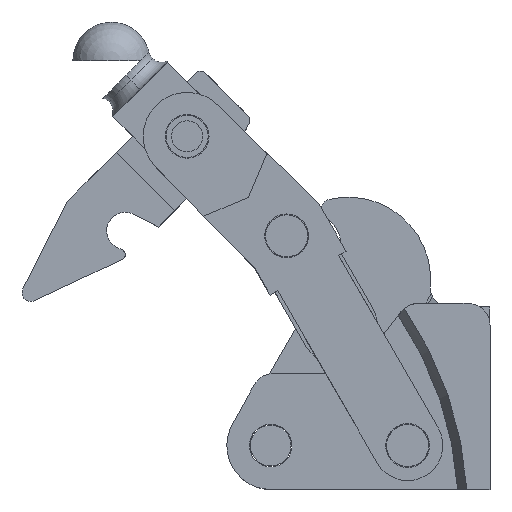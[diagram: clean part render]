
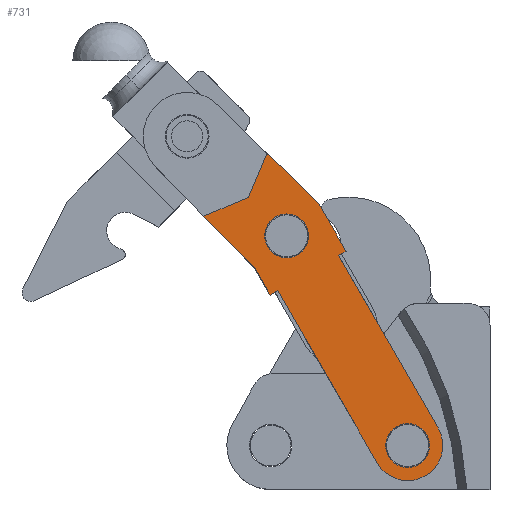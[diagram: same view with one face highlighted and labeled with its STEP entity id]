
A CAD part, top view. The second image highlights one B-rep face of the part: STEP entity #731.
In plain terms, the highlighted planar face has unit normal (0, 0, 1).
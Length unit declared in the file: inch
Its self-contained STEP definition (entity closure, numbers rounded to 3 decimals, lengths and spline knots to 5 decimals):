
#731 = ADVANCED_FACE( '', ( #1080, #1081, #1082 ), #1083, .F. );
#1080 = FACE_OUTER_BOUND( '', #1750, .T. );
#1081 = FACE_BOUND( '', #1751, .T. );
#1082 = FACE_BOUND( '', #1752, .T. );
#1083 = PLANE( '', #1753 );
#1750 = EDGE_LOOP( '', ( #2653, #2654, #2655, #2656, #2657, #2658, #2659, #2660, #2661, #2662, #2663, #2664 ) );
#1751 = EDGE_LOOP( '', ( #2665, #2666, #2667 ) );
#1752 = EDGE_LOOP( '', ( #2668, #2669, #2670 ) );
#1753 = AXIS2_PLACEMENT_3D( '', #2671, #2672, #2673 );
#2653 = ORIENTED_EDGE( '', *, *, #5144, .F. );
#2654 = ORIENTED_EDGE( '', *, *, #5150, .F. );
#2655 = ORIENTED_EDGE( '', *, *, #5128, .F. );
#2656 = ORIENTED_EDGE( '', *, *, #5151, .F. );
#2657 = ORIENTED_EDGE( '', *, *, #5152, .F. );
#2658 = ORIENTED_EDGE( '', *, *, #5153, .F. );
#2659 = ORIENTED_EDGE( '', *, *, #5154, .F. );
#2660 = ORIENTED_EDGE( '', *, *, #5042, .F. );
#2661 = ORIENTED_EDGE( '', *, *, #5155, .F. );
#2662 = ORIENTED_EDGE( '', *, *, #5156, .F. );
#2663 = ORIENTED_EDGE( '', *, *, #5157, .F. );
#2664 = ORIENTED_EDGE( '', *, *, #5134, .F. );
#2665 = ORIENTED_EDGE( '', *, *, #5158, .T. );
#2666 = ORIENTED_EDGE( '', *, *, #5034, .T. );
#2667 = ORIENTED_EDGE( '', *, *, #5159, .T. );
#2668 = ORIENTED_EDGE( '', *, *, #5160, .T. );
#2669 = ORIENTED_EDGE( '', *, *, #5026, .T. );
#2670 = ORIENTED_EDGE( '', *, *, #5161, .T. );
#2671 = CARTESIAN_POINT( '', ( -0.938, 0.5, 0.66 ) );
#2672 = DIRECTION( '', ( 0., 0., -1. ) );
#2673 = DIRECTION( '', ( 0., -1., 0. ) );
#5026 = EDGE_CURVE( '', #5900, #5904, #5906, .T. );
#5034 = EDGE_CURVE( '', #5916, #5920, #5922, .T. );
#5042 = EDGE_CURVE( '', #5936, #5932, #5938, .T. );
#5128 = EDGE_CURVE( '', #6083, #6085, #6086, .T. );
#5134 = EDGE_CURVE( '', #6094, #6096, #6097, .T. );
#5144 = EDGE_CURVE( '', #6112, #6094, #6114, .T. );
#5150 = EDGE_CURVE( '', #6085, #6112, #6121, .T. );
#5151 = EDGE_CURVE( '', #6122, #6083, #6123, .T. );
#5152 = EDGE_CURVE( '', #6124, #6122, #6125, .T. );
#5153 = EDGE_CURVE( '', #6126, #6124, #6127, .T. );
#5154 = EDGE_CURVE( '', #5932, #6126, #6128, .T. );
#5155 = EDGE_CURVE( '', #6129, #5936, #6130, .T. );
#5156 = EDGE_CURVE( '', #6131, #6129, #6132, .T. );
#5157 = EDGE_CURVE( '', #6096, #6131, #6133, .T. );
#5158 = EDGE_CURVE( '', #6134, #5916, #6135, .T. );
#5159 = EDGE_CURVE( '', #5920, #6134, #6136, .T. );
#5160 = EDGE_CURVE( '', #6137, #5900, #6138, .T. );
#5161 = EDGE_CURVE( '', #5904, #6137, #6139, .T. );
#5900 = VERTEX_POINT( '', #7349 );
#5904 = VERTEX_POINT( '', #7354 );
#5906 = CIRCLE( '', #7357, 0.25 );
#5916 = VERTEX_POINT( '', #7369 );
#5920 = VERTEX_POINT( '', #7374 );
#5922 = CIRCLE( '', #7377, 0.25 );
#5932 = VERTEX_POINT( '', #7389 );
#5936 = VERTEX_POINT( '', #7394 );
#5938 = CIRCLE( '', #7397, 0.4 );
#6083 = VERTEX_POINT( '', #7616 );
#6085 = VERTEX_POINT( '', #7619 );
#6086 = LINE( '', #7620, #7621 );
#6094 = VERTEX_POINT( '', #7633 );
#6096 = VERTEX_POINT( '', #7636 );
#6097 = LINE( '', #7637, #7638 );
#6112 = VERTEX_POINT( '', #7661 );
#6114 = LINE( '', #7664, #7665 );
#6121 = LINE( '', #7674, #7675 );
#6122 = VERTEX_POINT( '', #7676 );
#6123 = LINE( '', #7677, #7678 );
#6124 = VERTEX_POINT( '', #7679 );
#6125 = LINE( '', #7680, #7681 );
#6126 = VERTEX_POINT( '', #7682 );
#6127 = LINE( '', #7683, #7684 );
#6128 = CIRCLE( '', #7685, 0.4 );
#6129 = VERTEX_POINT( '', #7686 );
#6130 = LINE( '', #7687, #7688 );
#6131 = VERTEX_POINT( '', #7689 );
#6132 = LINE( '', #7690, #7691 );
#6133 = LINE( '', #7692, #7693 );
#6134 = VERTEX_POINT( '', #7694 );
#6135 = CIRCLE( '', #7695, 0.25 );
#6136 = CIRCLE( '', #7696, 0.25 );
#6137 = VERTEX_POINT( '', #7697 );
#6138 = CIRCLE( '', #7698, 0.25 );
#6139 = CIRCLE( '', #7699, 0.25 );
#7349 = CARTESIAN_POINT( '', ( -2.443, 3.10674, 0.66 ) );
#7354 = CARTESIAN_POINT( '', ( -2.193, 2.67372, 0.66 ) );
#7357 = AXIS2_PLACEMENT_3D( '', #9488, #9489, #9490 );
#7369 = CARTESIAN_POINT( '', ( -1.063, 0.71651, 0.66 ) );
#7374 = CARTESIAN_POINT( '', ( -0.813, 0.28349, 0.66 ) );
#7377 = AXIS2_PLACEMENT_3D( '', #9504, #9505, #9506 );
#7389 = CARTESIAN_POINT( '', ( -0.738, 0.15359, 0.66 ) );
#7394 = CARTESIAN_POINT( '', ( -0.59159, 0.7, 0.66 ) );
#7397 = AXIS2_PLACEMENT_3D( '', #9520, #9521, #9522 );
#7616 = CARTESIAN_POINT( '', ( -2.68403, 2.5242, 0.66 ) );
#7619 = CARTESIAN_POINT( '', ( -3.26132, 3.11431, 0.66 ) );
#7620 = CARTESIAN_POINT( '', ( -2.68403, 2.5242, 0.66 ) );
#7621 = VECTOR( '', #9628, 1. );
#7633 = CARTESIAN_POINT( '', ( -2.54208, 3.83355, 0.66 ) );
#7636 = CARTESIAN_POINT( '', ( -1.95197, 3.25626, 0.66 ) );
#7637 = CARTESIAN_POINT( '', ( -2.54208, 3.83355, 0.66 ) );
#7638 = VECTOR( '', #9634, 1. );
#7661 = CARTESIAN_POINT( '', ( -2.75641, 3.32864, 0.66 ) );
#7664 = CARTESIAN_POINT( '', ( -2.75641, 3.32864, 0.66 ) );
#7665 = VECTOR( '', #9644, 1. );
#7674 = CARTESIAN_POINT( '', ( -3.26132, 3.11431, 0.66 ) );
#7675 = VECTOR( '', #9656, 1. );
#7676 = CARTESIAN_POINT( '', ( -2.50601, 2.21588, 0.66 ) );
#7677 = CARTESIAN_POINT( '', ( -2.50601, 2.21588, 0.66 ) );
#7678 = VECTOR( '', #9657, 1. );
#7679 = CARTESIAN_POINT( '', ( -2.41941, 2.26588, 0.66 ) );
#7680 = CARTESIAN_POINT( '', ( -2.41941, 2.26588, 0.66 ) );
#7681 = VECTOR( '', #9658, 1. );
#7682 = CARTESIAN_POINT( '', ( -1.28441, 0.3, 0.66 ) );
#7683 = CARTESIAN_POINT( '', ( -1.28441, 0.3, 0.66 ) );
#7684 = VECTOR( '', #9659, 1. );
#7685 = AXIS2_PLACEMENT_3D( '', #9660, #9661, #9662 );
#7686 = CARTESIAN_POINT( '', ( -1.72659, 2.66588, 0.66 ) );
#7687 = CARTESIAN_POINT( '', ( -1.72659, 2.66588, 0.66 ) );
#7688 = VECTOR( '', #9663, 1. );
#7689 = CARTESIAN_POINT( '', ( -1.63999, 2.71588, 0.66 ) );
#7690 = CARTESIAN_POINT( '', ( -1.63999, 2.71588, 0.66 ) );
#7691 = VECTOR( '', #9664, 1. );
#7692 = CARTESIAN_POINT( '', ( -1.95197, 3.25626, 0.66 ) );
#7693 = VECTOR( '', #9665, 1. );
#7694 = CARTESIAN_POINT( '', ( -1.15451, 0.375, 0.66 ) );
#7695 = AXIS2_PLACEMENT_3D( '', #9666, #9667, #9668 );
#7696 = AXIS2_PLACEMENT_3D( '', #9669, #9670, #9671 );
#7697 = CARTESIAN_POINT( '', ( -2.53451, 2.76523, 0.66 ) );
#7698 = AXIS2_PLACEMENT_3D( '', #9672, #9673, #9674 );
#7699 = AXIS2_PLACEMENT_3D( '', #9675, #9676, #9677 );
#9488 = CARTESIAN_POINT( '', ( -2.318, 2.89023, 0.66 ) );
#9489 = DIRECTION( '', ( 0., 0., -1. ) );
#9490 = DIRECTION( '', ( -0.866, -0.5, 0. ) );
#9504 = CARTESIAN_POINT( '', ( -0.938, 0.5, 0.66 ) );
#9505 = DIRECTION( '', ( 0., 0., -1. ) );
#9506 = DIRECTION( '', ( -0.866, -0.5, 0. ) );
#9520 = CARTESIAN_POINT( '', ( -0.938, 0.5, 0.66 ) );
#9521 = DIRECTION( '', ( 0., 0., -1. ) );
#9522 = DIRECTION( '', ( 0.866, 0.5, 0. ) );
#9628 = DIRECTION( '', ( -0.699, 0.715, 0. ) );
#9634 = DIRECTION( '', ( 0.715, -0.699, 0. ) );
#9644 = DIRECTION( '', ( 0.391, 0.921, 0. ) );
#9656 = DIRECTION( '', ( 0.921, 0.391, 0. ) );
#9657 = DIRECTION( '', ( -0.5, 0.866, 0. ) );
#9658 = DIRECTION( '', ( -0.866, -0.5, 0. ) );
#9659 = DIRECTION( '', ( -0.5, 0.866, 0. ) );
#9660 = CARTESIAN_POINT( '', ( -0.938, 0.5, 0.66 ) );
#9661 = DIRECTION( '', ( 0., 0., -1. ) );
#9662 = DIRECTION( '', ( 0.866, 0.5, 0. ) );
#9663 = DIRECTION( '', ( 0.5, -0.866, 0. ) );
#9664 = DIRECTION( '', ( -0.866, -0.5, 0. ) );
#9665 = DIRECTION( '', ( 0.5, -0.866, 0. ) );
#9666 = CARTESIAN_POINT( '', ( -0.938, 0.5, 0.66 ) );
#9667 = DIRECTION( '', ( 0., 0., -1. ) );
#9668 = DIRECTION( '', ( -0.866, -0.5, 0. ) );
#9669 = CARTESIAN_POINT( '', ( -0.938, 0.5, 0.66 ) );
#9670 = DIRECTION( '', ( 0., 0., -1. ) );
#9671 = DIRECTION( '', ( -0.866, -0.5, 0. ) );
#9672 = CARTESIAN_POINT( '', ( -2.318, 2.89023, 0.66 ) );
#9673 = DIRECTION( '', ( 0., 0., -1. ) );
#9674 = DIRECTION( '', ( -0.866, -0.5, 0. ) );
#9675 = CARTESIAN_POINT( '', ( -2.318, 2.89023, 0.66 ) );
#9676 = DIRECTION( '', ( 0., 0., -1. ) );
#9677 = DIRECTION( '', ( -0.866, -0.5, 0. ) );
